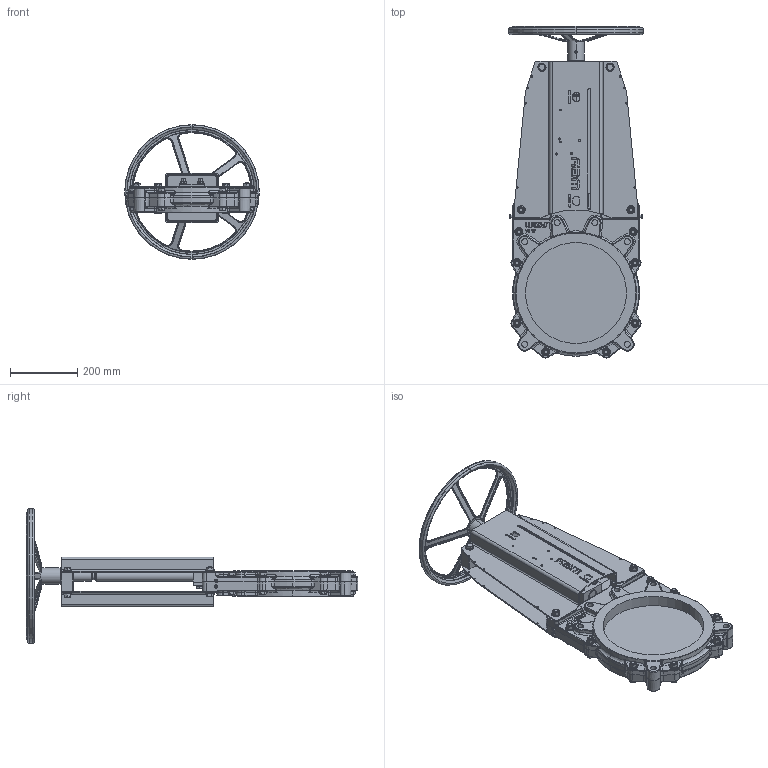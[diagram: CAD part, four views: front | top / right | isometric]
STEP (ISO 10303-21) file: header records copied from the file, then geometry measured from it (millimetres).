
FILE_DESCRIPTION (( 'STEP AP214' ), '1' );
FILE_NAME ('VSA DN 0300.STEP', '2015-09-23T10:56:55', ( 'admin' ), ( 'Hewlett-Packard Company' ), 'SwSTEP 2.0', 'SolidWorks 2013', '' );
FILE_SCHEMA (( 'AUTOMOTIVE_DESIGN' ));
Length unit declared in the file: millimetre
Products named in the file (1): VSA DN 0300
Bounding box: 400 x 985.3 x 400 mm (x, y, z)
Volume: 8959998.4 mm3; surface area: 1690070.5 mm2
Topology: 64 solids, 65 shells, 2904 faces, 6952 edges, 4124 vertices
Faces by surface type: plane 959, cylinder 812, cone 511, bspline 408, torus 195, sphere 19
Entity records: 136881 total; most frequent: CARTESIAN_POINT 40113, ORIENTED_EDGE 13668, DIRECTION 12922, EDGE_CURVE 6834, AXIS2_PLACEMENT_3D 5125, VERTEX_POINT 4124, EDGE_LOOP 3204, UNCERTAINTY_MEASURE_WITH_UNIT 2970
